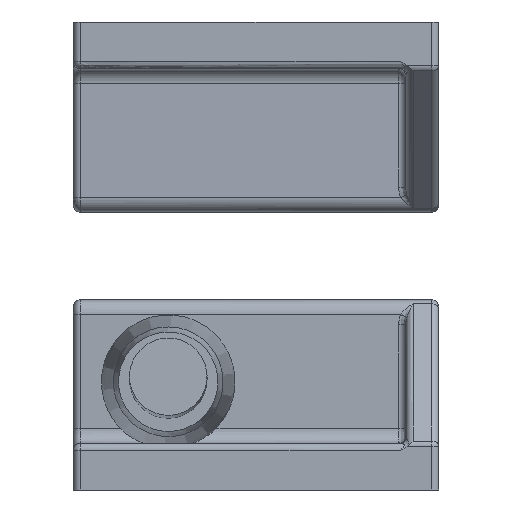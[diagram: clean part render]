
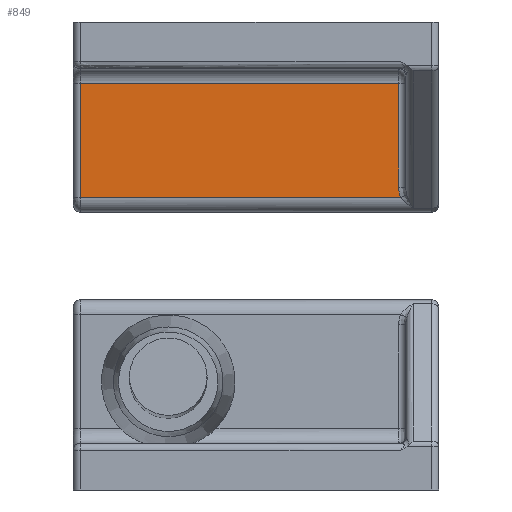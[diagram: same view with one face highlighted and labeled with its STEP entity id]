
A CAD part, left-side view. The second image highlights one B-rep face of the part: STEP entity #849.
In plain terms, the highlighted planar face has unit normal (-1, 0, -0.01) as drawn and (1, 0, 0.01) by its records, which use the part's own axes.
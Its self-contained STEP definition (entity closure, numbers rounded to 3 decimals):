
#569=CARTESIAN_POINT('',(77.99,2.754,4.19));
#570=VERTEX_POINT('',#569);
#603=CARTESIAN_POINT('',(77.919,2.754,11.293));
#604=VERTEX_POINT('',#603);
#621=CARTESIAN_POINT('',(77.99,2.754,4.19));
#622=DIRECTION('',(-0.01,0.0,1.));
#623=VECTOR('',#622,7.103);
#624=LINE('',#621,#623);
#625=EDGE_CURVE('',#570,#604,#624,.T.);
#671=CARTESIAN_POINT('',(77.912,2.606,12.01));
#672=VERTEX_POINT('',#671);
#690=CARTESIAN_POINT('',(77.919,1.754,11.293));
#691=DIRECTION('',(1.,0.,0.01));
#692=DIRECTION('',(-0.01,0.,1.));
#693=AXIS2_PLACEMENT_3D('',#690,#691,#692);
#694=ELLIPSE('',#693,1.369,1.);
#695=EDGE_CURVE('',#604,#672,#694,.T.);
#782=CARTESIAN_POINT('',(77.912,24.5,12.01));
#783=VERTEX_POINT('',#782);
#784=CARTESIAN_POINT('',(77.912,24.5,12.01));
#785=DIRECTION('',(0.0,-1.0,0.0));
#786=VECTOR('',#785,21.894);
#787=LINE('',#784,#786);
#788=EDGE_CURVE('',#783,#672,#787,.T.);
#825=CARTESIAN_POINT('',(78.,24.968,3.2));
#826=DIRECTION('',(1.,0.,0.01));
#827=DIRECTION('',(0.0,1.0,0.0));
#828=AXIS2_PLACEMENT_3D('',#825,#826,#827);
#829=PLANE('',#828);
#830=CARTESIAN_POINT('',(77.99,24.5,4.19));
#831=VERTEX_POINT('',#830);
#832=CARTESIAN_POINT('',(77.912,24.5,12.01));
#833=DIRECTION('',(0.01,0.,-1.));
#834=VECTOR('',#833,7.82);
#835=LINE('',#832,#834);
#836=EDGE_CURVE('',#783,#831,#835,.T.);
#837=ORIENTED_EDGE('',*,*,#836,.F.);
#838=ORIENTED_EDGE('',*,*,#788,.T.);
#839=ORIENTED_EDGE('',*,*,#695,.F.);
#840=ORIENTED_EDGE('',*,*,#625,.F.);
#841=CARTESIAN_POINT('',(77.99,24.5,4.19));
#842=DIRECTION('',(0.0,-1.0,0.0));
#843=VECTOR('',#842,21.746);
#844=LINE('',#841,#843);
#845=EDGE_CURVE('',#831,#570,#844,.T.);
#846=ORIENTED_EDGE('',*,*,#845,.F.);
#847=EDGE_LOOP('',(#837,#838,#839,#840,#846));
#848=FACE_OUTER_BOUND('',#847,.T.);
#849=ADVANCED_FACE('',(#848),#829,.T.);
